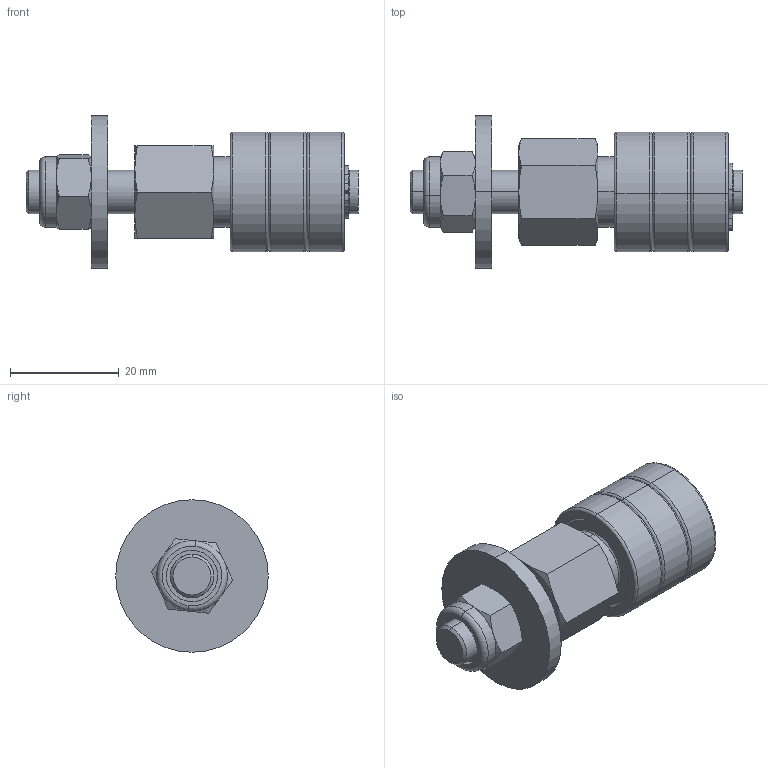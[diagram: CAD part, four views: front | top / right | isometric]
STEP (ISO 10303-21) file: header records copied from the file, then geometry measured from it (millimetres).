
FILE_DESCRIPTION (( 'STEP AP203' ), '1' );
FILE_NAME ('084.810.006.STEP', '2013-01-29T13:24:43', ( 'Alusic' ), ( 'Alusic' ), 'SwSTEP 2.0', 'SolidWorks 2011', '' );
FILE_SCHEMA (( 'CONFIG_CONTROL_DESIGN' ));
Length unit declared in the file: millimetre
Products named in the file (6): 084.810.006; CUSCINETTI A SFERE_608-2RS; 084.810.008; Circlip for Shafts normal_din_Circlip DIN 471 - 8 x 0.8; Plain Washer XLarge Grade C_ALUSIC_Washer ISO 7094 - 8; Torque nut 01_ALUSIC_ISO 7040-M8-S
Assembly tree (7 placements, depth 2):
  084.810.006
    Plain Washer XLarge Grade C_ALUSIC_Washer ISO 7094 - 8
    CUSCINETTI A SFERE_608-2RS  x3
    Circlip for Shafts normal_din_Circlip DIN 471 - 8 x 0.8
    Torque nut 01_ALUSIC_ISO 7040-M8-S
    084.810.008
Bounding box: 61 x 28 x 28 mm (x, y, z)
Volume: 15344.9 mm3; surface area: 8991.1 mm2
Topology: 7 solids, 7 shells, 219 faces, 465 edges, 278 vertices
Faces by surface type: cone 78, cylinder 61, plane 54, torus 26
Entity records: 5383 total; most frequent: CARTESIAN_POINT 1008, DIRECTION 847, ORIENTED_EDGE 722, EDGE_CURVE 361, AXIS2_PLACEMENT_3D 357, VERTEX_POINT 214, EDGE_LOOP 183, CIRCLE 180
